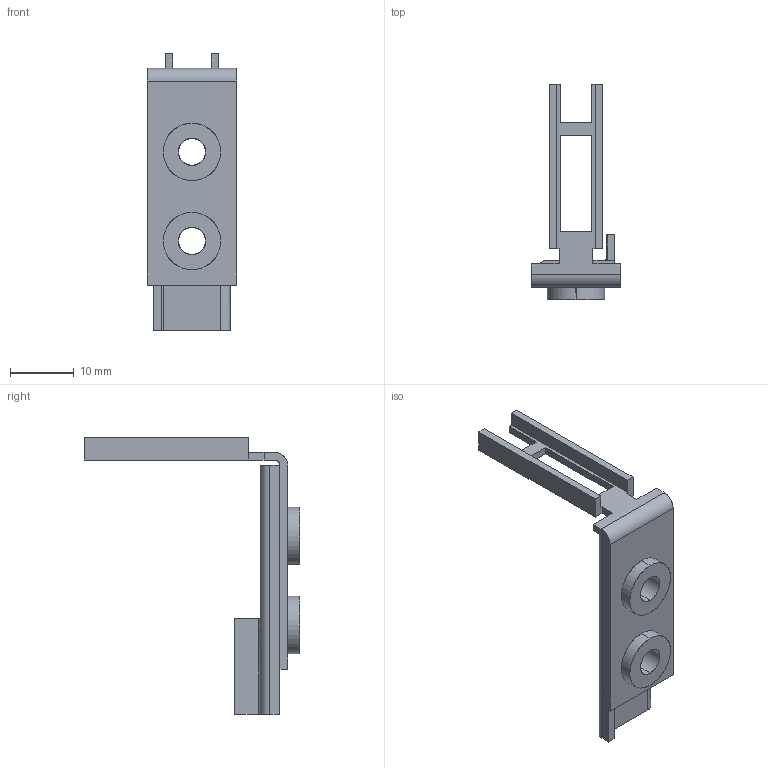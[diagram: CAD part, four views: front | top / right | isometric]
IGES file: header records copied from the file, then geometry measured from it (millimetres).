
Start section: SolidWorks IGES file using analytic representation for surfaces
Global section: file name: C:\catalog\sg-k12a.IGS; native system: SolidWorks 2010; preprocessor: SolidWorks 2010; author: kk1675; date: 130723.154653; units: millimetre
Bounding box: 14 x 33.8 x 43.4 mm (x, y, z)
Surface area: 3113.5 mm2 (no closed solid volume)
Topology: 0 solids, 0 shells, 73 faces, 944 edges, 943 vertices
Faces by surface type: bspline 49, revolution 24
